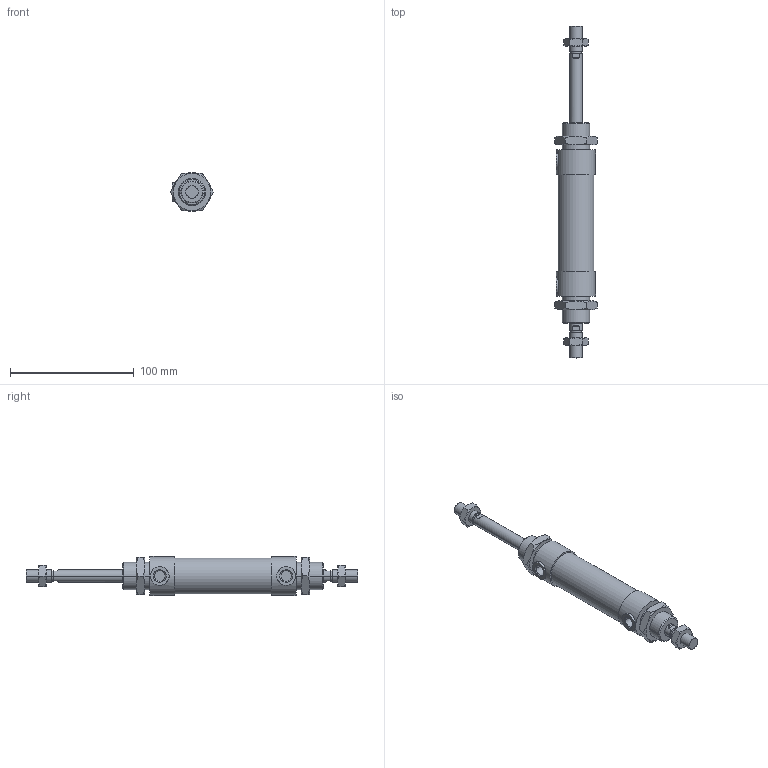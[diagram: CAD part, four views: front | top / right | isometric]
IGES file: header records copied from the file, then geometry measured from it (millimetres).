
Global section: file name: No Iges File Name specified; native system: AutoDesk Inventor R10; preprocessor: AutoDesk Inventor Iges Exporter R10; author: No Author specified; organization: No Organization specified; date: 20060105.143600; units: millimetre
Bounding box: 34.64 x 268 x 31.5 mm (x, y, z)
Volume: 114967.4 mm3; surface area: 35594.6 mm2
Topology: 6 solids, 6 shells, 185 faces, 397 edges, 232 vertices
Faces by surface type: cone 68, plane 62, cylinder 21, bspline 20, revolution 14
Full cylindrical faces by diameter (mm): 29 x1, 31.5 x2
